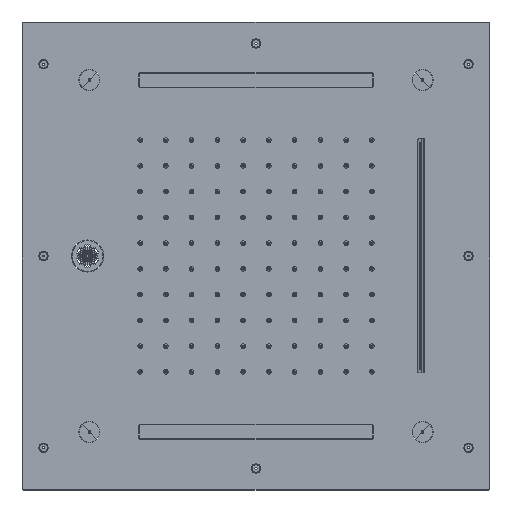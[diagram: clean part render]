
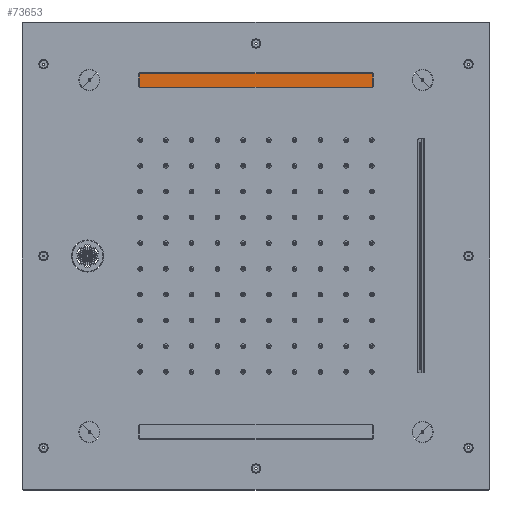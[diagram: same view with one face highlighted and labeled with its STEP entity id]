
A CAD part, top view. The second image highlights one B-rep face of the part: STEP entity #73653.
In plain terms, the highlighted planar face has unit normal (0, 0, 1).
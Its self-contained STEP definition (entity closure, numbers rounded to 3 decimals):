
#73434=DIRECTION('',(0.,-1.,0.));
#73435=VECTOR('',#73434,13.);
#73436=CARTESIAN_POINT('',(-125.,194.5,1.5));
#73437=LINE('',#73436,#73435);
#73438=CARTESIAN_POINT('',(-124.,194.5,1.5));
#73439=DIRECTION('',(0.,0.,1.));
#73440=DIRECTION('',(0.,1.,0.));
#73441=AXIS2_PLACEMENT_3D('',#73438,#73439,#73440);
#73443=DIRECTION('',(-1.,0.,0.));
#73444=VECTOR('',#73443,248.);
#73445=CARTESIAN_POINT('',(124.,195.5,1.5));
#73446=LINE('',#73445,#73444);
#73447=CARTESIAN_POINT('',(124.,194.5,1.5));
#73448=DIRECTION('',(0.,0.,1.));
#73449=DIRECTION('',(1.,0.,0.));
#73450=AXIS2_PLACEMENT_3D('',#73447,#73448,#73449);
#73452=DIRECTION('',(0.,1.,0.));
#73453=VECTOR('',#73452,13.);
#73454=CARTESIAN_POINT('',(125.,181.5,1.5));
#73455=LINE('',#73454,#73453);
#73456=CARTESIAN_POINT('',(124.,181.5,1.5));
#73457=DIRECTION('',(0.,0.,1.));
#73458=DIRECTION('',(0.,-1.,0.));
#73459=AXIS2_PLACEMENT_3D('',#73456,#73457,#73458);
#73461=DIRECTION('',(1.,0.,0.));
#73462=VECTOR('',#73461,248.);
#73463=CARTESIAN_POINT('',(-124.,180.5,1.5));
#73464=LINE('',#73463,#73462);
#73465=CARTESIAN_POINT('',(-124.,181.5,1.5));
#73466=DIRECTION('',(0.,0.,1.));
#73467=DIRECTION('',(-1.,0.,0.));
#73468=AXIS2_PLACEMENT_3D('',#73465,#73466,#73467);
#73470=CARTESIAN_POINT('',(-124.,180.5,1.5));
#73471=CARTESIAN_POINT('',(124.,180.5,1.5));
#73472=VERTEX_POINT('',#73470);
#73473=VERTEX_POINT('',#73471);
#73474=CARTESIAN_POINT('',(-125.,194.5,1.5));
#73475=CARTESIAN_POINT('',(-125.,181.5,1.5));
#73476=VERTEX_POINT('',#73474);
#73477=VERTEX_POINT('',#73475);
#73478=CARTESIAN_POINT('',(125.,181.5,1.5));
#73479=CARTESIAN_POINT('',(125.,194.5,1.5));
#73480=VERTEX_POINT('',#73478);
#73481=VERTEX_POINT('',#73479);
#73482=CARTESIAN_POINT('',(124.,195.5,1.5));
#73483=CARTESIAN_POINT('',(-124.,195.5,1.5));
#73484=VERTEX_POINT('',#73482);
#73485=VERTEX_POINT('',#73483);
#73638=CARTESIAN_POINT('',(0.,188.,1.5));
#73639=DIRECTION('',(0.,0.,-1.));
#73640=DIRECTION('',(-1.,0.,0.));
#73641=AXIS2_PLACEMENT_3D('',#73638,#73639,#73640);
#73642=PLANE('',#73641);
#73643=ORIENTED_EDGE('',*,*,#73563,.F.);
#73644=ORIENTED_EDGE('',*,*,#73577,.F.);
#73645=ORIENTED_EDGE('',*,*,#73591,.F.);
#73646=ORIENTED_EDGE('',*,*,#73605,.F.);
#73647=ORIENTED_EDGE('',*,*,#73619,.F.);
#73648=ORIENTED_EDGE('',*,*,#73632,.F.);
#73649=ORIENTED_EDGE('',*,*,#73534,.F.);
#73650=ORIENTED_EDGE('',*,*,#73549,.F.);
#73651=EDGE_LOOP('',(#73643,#73644,#73645,#73646,#73647,#73648,#73649,#73650));
#73652=FACE_OUTER_BOUND('',#73651,.F.);
#73653=ADVANCED_FACE('',(#73652),#73642,.F.);
#73442=CIRCLE('',#73441,1.);
#73451=CIRCLE('',#73450,1.);
#73460=CIRCLE('',#73459,1.);
#73469=CIRCLE('',#73468,1.);
#73534=EDGE_CURVE('',#73472,#73473,#73464,.T.);
#73549=EDGE_CURVE('',#73477,#73472,#73469,.T.);
#73563=EDGE_CURVE('',#73476,#73477,#73437,.T.);
#73577=EDGE_CURVE('',#73485,#73476,#73442,.T.);
#73591=EDGE_CURVE('',#73484,#73485,#73446,.T.);
#73605=EDGE_CURVE('',#73481,#73484,#73451,.T.);
#73619=EDGE_CURVE('',#73480,#73481,#73455,.T.);
#73632=EDGE_CURVE('',#73473,#73480,#73460,.T.);
